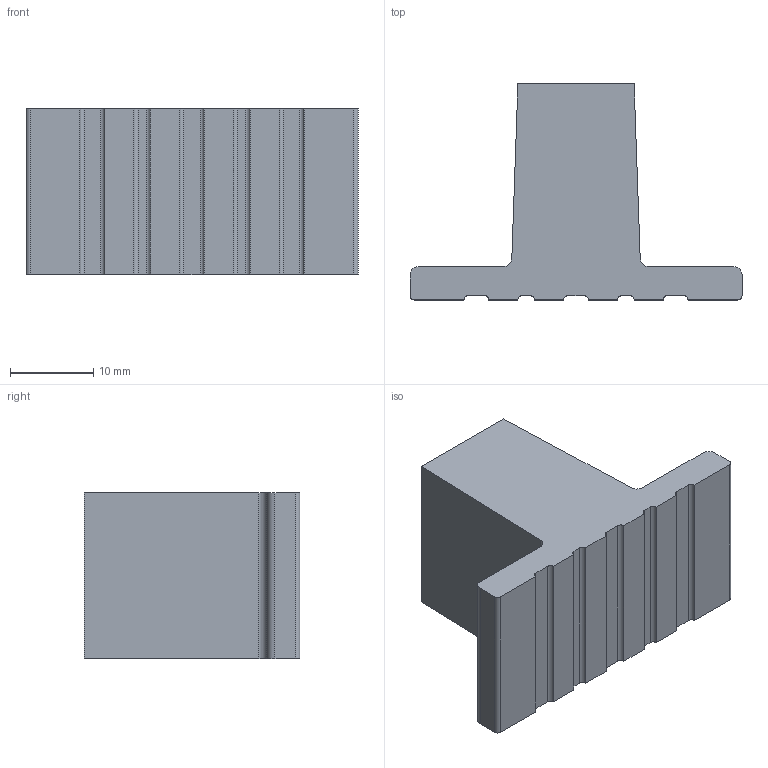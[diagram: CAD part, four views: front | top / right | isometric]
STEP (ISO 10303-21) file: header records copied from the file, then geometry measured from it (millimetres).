
FILE_DESCRIPTION( ( '' ), '1' );
FILE_NAME( 'C:/Documents and Settings/Nikhil/Desktop/Nik/Done/9080852.stp', '2013-10-23T11:23:07', ( '' ), ( '' ), ' ', ' ', ' ' );
FILE_SCHEMA( ( 'automotive_design' ) );
Length unit declared in the file: millimetre
Products named in the file (1): 1
Bounding box: 40 x 26 x 20 mm (x, y, z)
Volume: 8205.3 mm3; surface area: 4660.2 mm2
Topology: 1 solids, 1 shells, 57 faces, 156 edges, 104 vertices
Faces by surface type: plane 29, cylinder 18, cone 10
Entity records: 3606 total; most frequent: DIRECTION 328, STYLED_ITEM 318, PRESENTATION_STYLE_ASSIGNMENT 318, CARTESIAN_POINT 318, COLOUR_RGB 318, ORIENTED_EDGE 312, EDGE_CURVE 156, CURVE_STYLE 156
